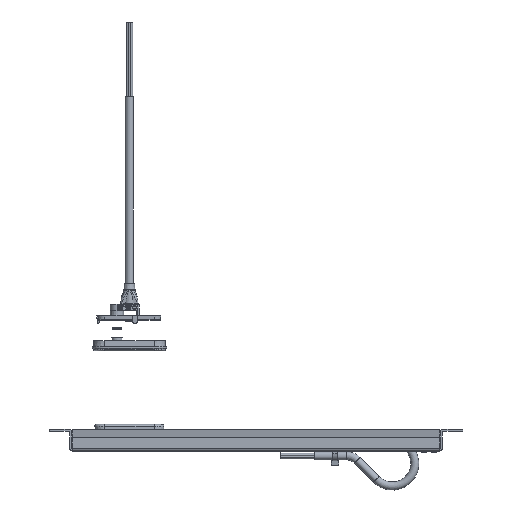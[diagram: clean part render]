
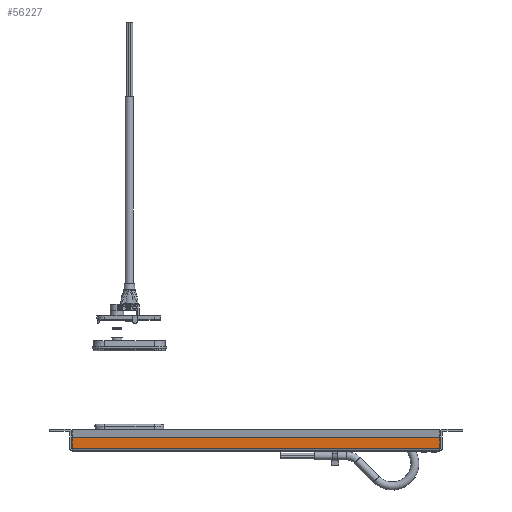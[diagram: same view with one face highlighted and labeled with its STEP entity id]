
A CAD part, front view. The second image highlights one B-rep face of the part: STEP entity #56227.
In plain terms, the highlighted planar face has unit normal (0, -1, 0).
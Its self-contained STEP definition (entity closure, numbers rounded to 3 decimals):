
#3827=PLANE('',#59816);
#5926=LINE('',#80202,#10264);
#5932=LINE('',#80217,#10270);
#5936=LINE('',#80228,#10274);
#5959=LINE('',#80290,#10297);
#10264=VECTOR('',#65164,10.);
#10270=VECTOR('',#65178,1.16);
#10274=VECTOR('',#65192,10.);
#10297=VECTOR('',#65257,10.);
#14995=FACE_OUTER_BOUND('',#18169,.T.);
#18169=EDGE_LOOP('',(#38551,#38552,#38553,#38554));
#23472=VERTEX_POINT('',#80199);
#23473=VERTEX_POINT('',#80201);
#23477=VERTEX_POINT('',#80214);
#23478=VERTEX_POINT('',#80216);
#29263=EDGE_CURVE('',#23472,#23473,#5926,.T.);
#29271=EDGE_CURVE('',#23477,#23478,#5932,.T.);
#29277=EDGE_CURVE('',#23477,#23473,#5936,.T.);
#29308=EDGE_CURVE('',#23472,#23478,#5959,.T.);
#38551=ORIENTED_EDGE('',*,*,#29277,.T.);
#38552=ORIENTED_EDGE('',*,*,#29263,.F.);
#38553=ORIENTED_EDGE('',*,*,#29308,.T.);
#38554=ORIENTED_EDGE('',*,*,#29271,.F.);
#56227=ADVANCED_FACE('',(#14995),#3827,.F.);
#59816=AXIS2_PLACEMENT_3D('',#80292,#65259,#65260);
#65164=DIRECTION('',(0.,0.,1.));
#65178=DIRECTION('',(0.,0.,-1.));
#65192=DIRECTION('',(-1.,0.,0.));
#65257=DIRECTION('',(1.,0.,0.));
#65259=DIRECTION('center_axis',(0.,1.,0.));
#65260=DIRECTION('ref_axis',(-1.,0.,0.));
#80199=CARTESIAN_POINT('',(-53.178,-11.,-6.));
#80201=CARTESIAN_POINT('',(-53.178,-11.,2.843));
#80202=CARTESIAN_POINT('',(-53.178,-11.,-6.));
#80214=CARTESIAN_POINT('',(242.822,-11.,2.843));
#80216=CARTESIAN_POINT('',(242.822,-11.,-6.));
#80217=CARTESIAN_POINT('',(242.822,-11.,-9.644));
#80228=CARTESIAN_POINT('',(20.822,-11.,2.843));
#80290=CARTESIAN_POINT('',(94.822,-11.,-6.));
#80292=CARTESIAN_POINT('Origin',(94.822,-11.,-2.411));
